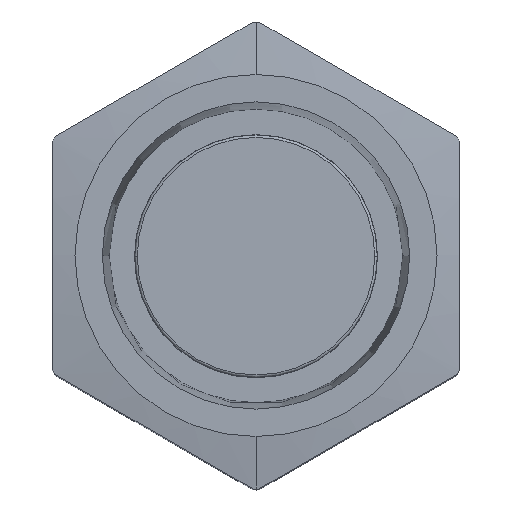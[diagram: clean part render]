
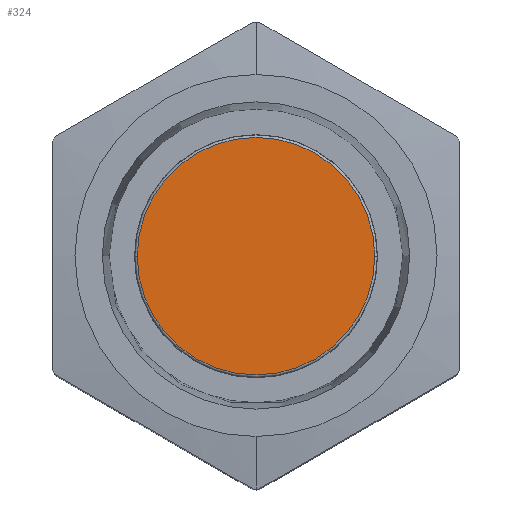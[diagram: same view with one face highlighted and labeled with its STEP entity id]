
A CAD part, top view. The second image highlights one B-rep face of the part: STEP entity #324.
In plain terms, the highlighted planar face has unit normal (0, 0, 1).
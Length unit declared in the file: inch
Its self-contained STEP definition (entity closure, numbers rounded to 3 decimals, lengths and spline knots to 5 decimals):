
#324 = ADVANCED_FACE ( 'NONE', ( #11279 ), #27402, .F. ) ;
#1149 = DIRECTION ( 'NONE',  ( -1., 0., 0. ) ) ;
#1798 = CIRCLE ( 'NONE', #7771, 0.328 ) ;
#2337 = CARTESIAN_POINT ( 'NONE',  ( 0.328, 0., 1.286 ) ) ;
#2451 = DIRECTION ( 'NONE',  ( 0., 0., 1. ) ) ;
#3568 = CARTESIAN_POINT ( 'NONE',  ( -0.328, 0., 1.286 ) ) ;
#5723 = AXIS2_PLACEMENT_3D ( 'NONE', #13065, #15476, #1149 ) ;
#6199 = EDGE_CURVE ( 'NONE', #19750, #26407, #6735, .T. ) ;
#6461 = EDGE_LOOP ( 'NONE', ( #20593, #17539 ) ) ;
#6735 = CIRCLE ( 'NONE', #18022, 0.328 ) ;
#7771 = AXIS2_PLACEMENT_3D ( 'NONE', #16770, #2451, #19182 ) ;
#10882 = DIRECTION ( 'NONE',  ( 0., 0., 1. ) ) ;
#11279 = FACE_OUTER_BOUND ( 'NONE', #6461, .T. ) ;
#13065 = CARTESIAN_POINT ( 'NONE',  ( -0.328, 0., 1.286 ) ) ;
#15476 = DIRECTION ( 'NONE',  ( 0., 0., -1. ) ) ;
#16770 = CARTESIAN_POINT ( 'NONE',  ( 0., 0., 1.286 ) ) ;
#17539 = ORIENTED_EDGE ( 'NONE', *, *, #22886, .T. ) ;
#18022 = AXIS2_PLACEMENT_3D ( 'NONE', #25257, #10882, #27641 ) ;
#19182 = DIRECTION ( 'NONE',  ( 1., 0., 0. ) ) ;
#19750 = VERTEX_POINT ( 'NONE', #2337 ) ;
#20593 = ORIENTED_EDGE ( 'NONE', *, *, #6199, .T. ) ;
#22886 = EDGE_CURVE ( 'NONE', #26407, #19750, #1798, .T. ) ;
#25257 = CARTESIAN_POINT ( 'NONE',  ( 0., 0., 1.286 ) ) ;
#26407 = VERTEX_POINT ( 'NONE', #3568 ) ;
#27402 = PLANE ( 'NONE',  #5723 ) ;
#27641 = DIRECTION ( 'NONE',  ( 1., 0., 0. ) ) ;
